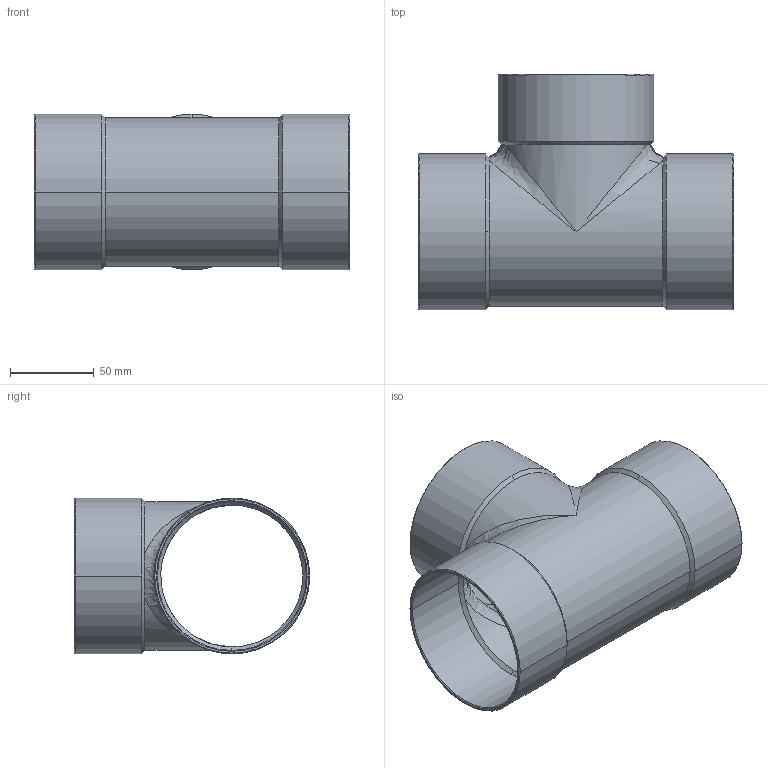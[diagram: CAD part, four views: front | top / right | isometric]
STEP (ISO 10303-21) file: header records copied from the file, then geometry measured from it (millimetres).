
FILE_DESCRIPTION((''),'2;1');
FILE_NAME('P:\Bouwmaten\z-maattekeningen 3D\5000\5130\d\513089.stp','2005-10-19T08:52:30',('Kris'),(''),'Autodesk Inventor 8','Autodesk Inventor 8','');
FILE_SCHEMA(('AUTOMOTIVE_DESIGN { 1 0 10303 214 1 1 1 1 }'));
Length unit declared in the file: millimetre
Products named in the file (1): 513089
Bounding box: 188.5 x 140.85 x 93.2 mm (x, y, z)
Volume: 134154.2 mm3; surface area: 129257.5 mm2
Topology: 1 solids, 1 shells, 51 faces, 142 edges, 84 vertices
Faces by surface type: cone 24, cylinder 20, bspline 4, plane 3
Entity records: 2151 total; most frequent: CARTESIAN_POINT 810, DIRECTION 310, ORIENTED_EDGE 268, AXIS2_PLACEMENT_3D 136, EDGE_CURVE 134, VERTEX_POINT 84, CIRCLE 72, EDGE_LOOP 54
